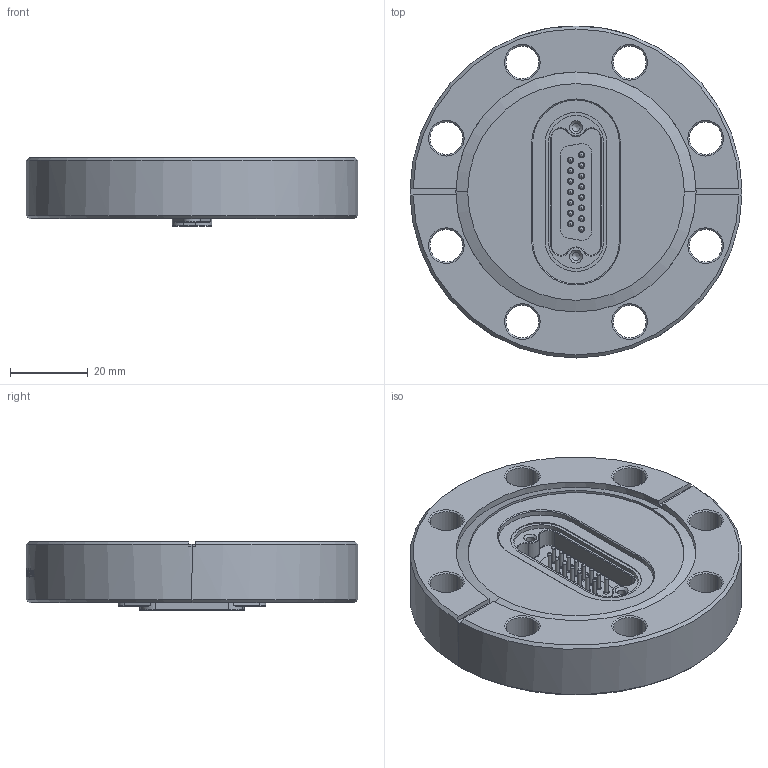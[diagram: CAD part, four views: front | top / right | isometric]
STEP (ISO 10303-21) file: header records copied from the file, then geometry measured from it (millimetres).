
FILE_DESCRIPTION(/* description */ ('Alibre Inc.'),/* implementation_level */ '2;1');
FILE_NAME(/* name */ 'export0',/* time_stamp */ '2014-10-29T15:51:19-07:00',/* author */ (''),/* organization */ (''),/* preprocessor_version */ 'ST-DEVELOPER v14',/* originating_system */ 'Alibre',/* authorisation */ '');
FILE_SCHEMA (('CONFIG_CONTROL_DESIGN'));
Length unit declared in the file: centimetre
Products named in the file (1): ID_1
Bounding box: 85.6 x 85.6 x 17.78 mm (x, y, z)
Volume: 74915.9 mm3; surface area: 20231.6 mm2
Topology: 1 solids, 1 shells, 645 faces, 1521 edges, 975 vertices
Faces by surface type: plane 249, bspline 140, cylinder 118, cone 78, torus 60
Full cylindrical faces by diameter (mm): 1.016 x30, 2.156 x4
Entity records: 41715 total; most frequent: CARTESIAN_POINT 28679, ORIENTED_EDGE 2800, DIRECTION 2026, EDGE_CURVE 1400, VERTEX_POINT 960, AXIS2_PLACEMENT_3D 946, FACE_BOUND 864, EDGE_LOOP 860
